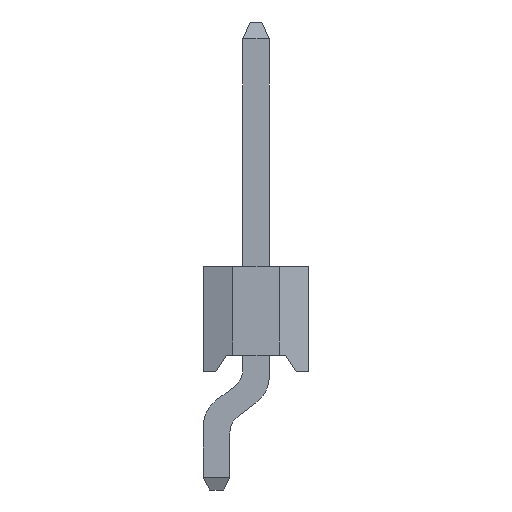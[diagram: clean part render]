
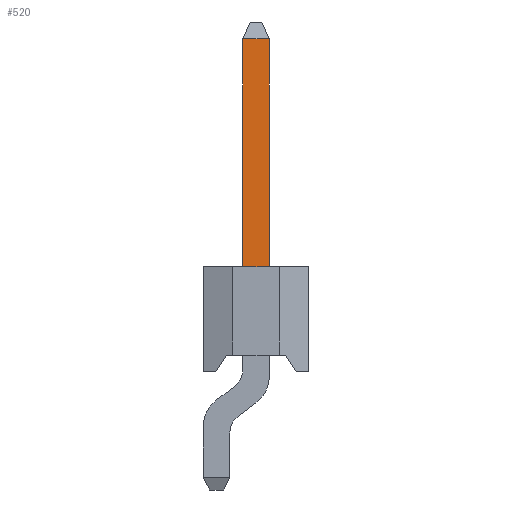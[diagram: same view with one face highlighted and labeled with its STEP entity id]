
A CAD part, left-side view. The second image highlights one B-rep face of the part: STEP entity #520.
In plain terms, the highlighted planar face has unit normal (-1, 0, 0).
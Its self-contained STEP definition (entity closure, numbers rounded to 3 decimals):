
#520=ADVANCED_FACE('',(#2566),#1604,.T.);
#1604=PLANE('',#20249);
#2566=FACE_OUTER_BOUND('',#3710,.T.);
#3710=EDGE_LOOP('',(#5582,#5583,#5584,#5585));
#5582=ORIENTED_EDGE('',*,*,#12974,.T.);
#5583=ORIENTED_EDGE('',*,*,#12975,.T.);
#5584=ORIENTED_EDGE('',*,*,#12976,.F.);
#5585=ORIENTED_EDGE('',*,*,#12960,.F.);
#11098=VERTEX_POINT('',#28296);
#11099=VERTEX_POINT('',#28297);
#11106=VERTEX_POINT('',#28323);
#11107=VERTEX_POINT('',#28325);
#12960=EDGE_CURVE('',#11098,#11099,#15786,.T.);
#12974=EDGE_CURVE('',#11098,#11106,#15800,.T.);
#12975=EDGE_CURVE('',#11106,#11107,#15801,.T.);
#12976=EDGE_CURVE('',#11099,#11107,#15802,.T.);
#15786=LINE('',#28295,#18372);
#15800=LINE('',#28322,#18386);
#15801=LINE('',#28324,#18387);
#15802=LINE('',#28326,#18388);
#18372=VECTOR('',#22403,1.);
#18386=VECTOR('',#22427,1.);
#18387=VECTOR('',#22428,1.);
#18388=VECTOR('',#22429,1.);
#20249=AXIS2_PLACEMENT_3D('',#28327,#22430,#22431);
#22403=DIRECTION('',(0.,1.,0.));
#22427=DIRECTION('',(0.,0.,1.));
#22428=DIRECTION('',(0.,1.,0.));
#22429=DIRECTION('',(0.,0.,1.));
#22430=DIRECTION('',(-1.,0.,0.));
#22431=DIRECTION('',(0.,0.,1.));
#28295=CARTESIAN_POINT('',(0.955,0.935,2.1));
#28296=CARTESIAN_POINT('',(0.955,0.935,2.1));
#28297=CARTESIAN_POINT('',(0.955,1.565,2.1));
#28322=CARTESIAN_POINT('',(0.955,0.935,7.9));
#28323=CARTESIAN_POINT('',(0.955,0.935,7.5));
#28324=CARTESIAN_POINT('',(0.955,0.935,7.5));
#28325=CARTESIAN_POINT('',(0.955,1.565,7.5));
#28326=CARTESIAN_POINT('',(0.955,1.565,7.9));
#28327=CARTESIAN_POINT('',(0.955,0.935,2.1));
